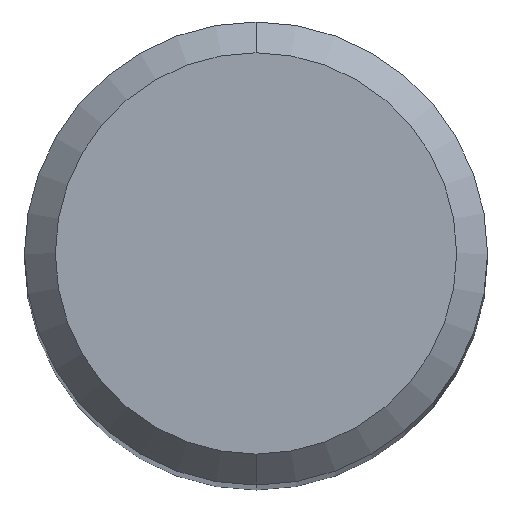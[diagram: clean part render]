
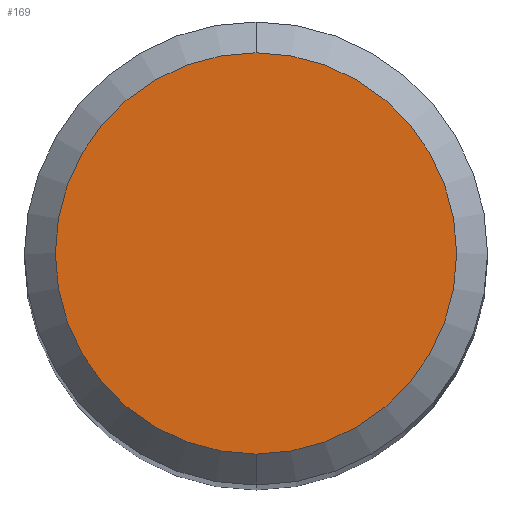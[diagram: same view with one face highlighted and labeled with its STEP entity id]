
A CAD part, top view. The second image highlights one B-rep face of the part: STEP entity #169.
In plain terms, the highlighted free-form (B-spline) face has degree [1, 1] with [2, 2] control points.
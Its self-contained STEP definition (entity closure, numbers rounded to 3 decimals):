
#20=CARTESIAN_POINT('',(0.,0.,0.));
#21=DIRECTION('',(0.,0.,1.));
#22=DIRECTION('',(0.,1.,0.));
#23=AXIS2_PLACEMENT_3D('',#20,#21,#22);
#25=CARTESIAN_POINT('',(0.,0.,0.));
#26=DIRECTION('',(0.,0.,-1.));
#27=DIRECTION('',(0.,1.,0.));
#28=AXIS2_PLACEMENT_3D('',#25,#26,#27);
#139=CARTESIAN_POINT('',(0.,2.6,0.));
#141=VERTEX_POINT('',#139);
#143=CARTESIAN_POINT('',(0.,-2.6,0.));
#145=VERTEX_POINT('',#143);
#158=CARTESIAN_POINT('',(2.704,2.704,0.));
#159=CARTESIAN_POINT('',(-2.704,2.704,0.));
#160=CARTESIAN_POINT('',(2.704,-2.704,0.));
#161=CARTESIAN_POINT('',(-2.704,-2.704,0.));
#162=B_SPLINE_SURFACE_WITH_KNOTS('',1,1,((#158,#159),(#160,#161)),.UNSPECIFIED.,
.F.,.F.,.F.,(2,2),(2,2),(-2.704,2.704),(-2.704,2.704),
.UNSPECIFIED.);
#164=ORIENTED_EDGE('',*,*,#163,.F.);
#166=ORIENTED_EDGE('',*,*,#165,.T.);
#167=EDGE_LOOP('',(#164,#166));
#168=FACE_OUTER_BOUND('',#167,.F.);
#24=CIRCLE('',#23,2.6);
#29=CIRCLE('',#28,2.6);
#163=EDGE_CURVE('',#141,#145,#24,.T.);
#165=EDGE_CURVE('',#141,#145,#29,.T.);
#169=ADVANCED_FACE('',(#168),#162,.F.);
